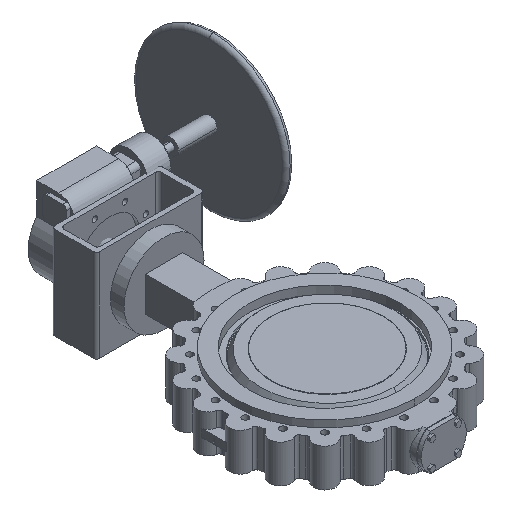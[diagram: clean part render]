
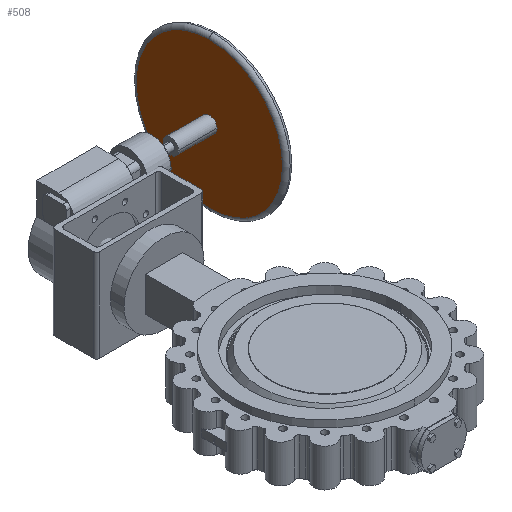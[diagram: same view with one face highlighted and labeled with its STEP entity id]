
A CAD part, isometric view. The second image highlights one B-rep face of the part: STEP entity #508.
In plain terms, the highlighted planar face has unit normal (-1, 0, 0).
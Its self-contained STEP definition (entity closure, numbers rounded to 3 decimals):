
#508 = ADVANCED_FACE( '', ( #1388, #1389 ), #1390, .T. );
#1388 = FACE_OUTER_BOUND( '', #2288, .T. );
#1389 = FACE_BOUND( '', #2289, .T. );
#1390 = PLANE( '', #2290 );
#2288 = EDGE_LOOP( '', ( #5537, #5538, #5539 ) );
#2289 = EDGE_LOOP( '', ( #5540, #5541 ) );
#2290 = AXIS2_PLACEMENT_3D( '', #5542, #5543, #5544 );
#5537 = ORIENTED_EDGE( '', *, *, #6602, .F. );
#5538 = ORIENTED_EDGE( '', *, *, #6601, .F. );
#5539 = ORIENTED_EDGE( '', *, *, #6598, .F. );
#5540 = ORIENTED_EDGE( '', *, *, #6614, .T. );
#5541 = ORIENTED_EDGE( '', *, *, #6751, .T. );
#5542 = CARTESIAN_POINT( '', ( 392., 898.25, 130. ) );
#5543 = DIRECTION( '', ( -1., 0., 0. ) );
#5544 = DIRECTION( '', ( 0., -1., 0. ) );
#6598 = EDGE_CURVE( '', #8282, #8284, #8285, .T. );
#6601 = EDGE_CURVE( '', #8284, #8288, #8289, .T. );
#6602 = EDGE_CURVE( '', #8288, #8282, #8290, .T. );
#6614 = EDGE_CURVE( '', #8307, #8311, #8313, .T. );
#6751 = EDGE_CURVE( '', #8311, #8307, #8542, .T. );
#8282 = VERTEX_POINT( '', #11266 );
#8284 = VERTEX_POINT( '', #11268 );
#8285 = CIRCLE( '', #11269, 237.5 );
#8288 = VERTEX_POINT( '', #11272 );
#8289 = CIRCLE( '', #11273, 237.5 );
#8290 = CIRCLE( '', #11274, 237.5 );
#8307 = VERTEX_POINT( '', #11293 );
#8311 = VERTEX_POINT( '', #11298 );
#8313 = CIRCLE( '', #11301, 25. );
#8542 = CIRCLE( '', #11655, 25. );
#11266 = CARTESIAN_POINT( '', ( 392., 767., 367.5 ) );
#11268 = CARTESIAN_POINT( '', ( 392., 767., -107.5 ) );
#11269 = AXIS2_PLACEMENT_3D( '', #13510, #13511, #13512 );
#11272 = CARTESIAN_POINT( '', ( 392., 1004.5, 130. ) );
#11273 = AXIS2_PLACEMENT_3D( '', #13519, #13520, #13521 );
#11274 = AXIS2_PLACEMENT_3D( '', #13522, #13523, #13524 );
#11293 = CARTESIAN_POINT( '', ( 392., 792., 130. ) );
#11298 = CARTESIAN_POINT( '', ( 392., 742., 130. ) );
#11301 = AXIS2_PLACEMENT_3D( '', #13550, #13551, #13552 );
#11655 = AXIS2_PLACEMENT_3D( '', #13784, #13785, #13786 );
#13510 = CARTESIAN_POINT( '', ( 392., 767., 130. ) );
#13511 = DIRECTION( '', ( 1., 0., 0. ) );
#13512 = DIRECTION( '', ( 0., 1., 0. ) );
#13519 = CARTESIAN_POINT( '', ( 392., 767., 130. ) );
#13520 = DIRECTION( '', ( 1., 0., 0. ) );
#13521 = DIRECTION( '', ( 0., 1., 0. ) );
#13522 = CARTESIAN_POINT( '', ( 392., 767., 130. ) );
#13523 = DIRECTION( '', ( 1., 0., 0. ) );
#13524 = DIRECTION( '', ( 0., 1., 0. ) );
#13550 = CARTESIAN_POINT( '', ( 392., 767., 130. ) );
#13551 = DIRECTION( '', ( 1., 0., 0. ) );
#13552 = DIRECTION( '', ( 0., 1., 0. ) );
#13784 = CARTESIAN_POINT( '', ( 392., 767., 130. ) );
#13785 = DIRECTION( '', ( 1., 0., 0. ) );
#13786 = DIRECTION( '', ( 0., 1., 0. ) );
